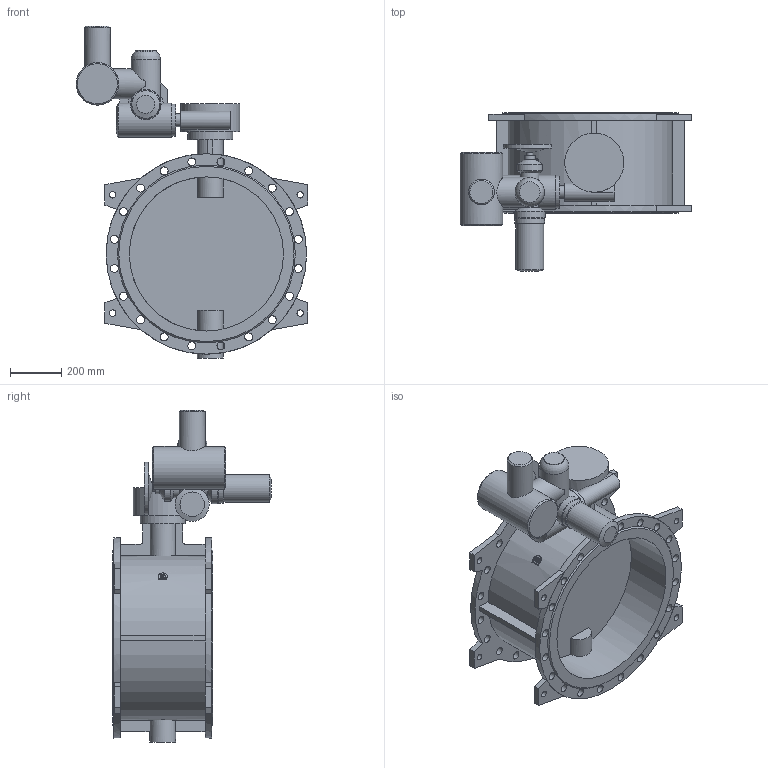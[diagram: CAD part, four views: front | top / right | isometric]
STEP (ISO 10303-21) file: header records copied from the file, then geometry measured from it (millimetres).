
FILE_DESCRIPTION(('STEP AP203'), '1');
FILE_NAME('Çàòâîð 023F.Z DN600 PN10 + ðåäóêòîð + ÌÒ903.À10 ñ ÁÓ', '', ('UNSPECIFIED'), ('UNSPECIFIED'), 'ASCON STEP Converter 1.6', 'ASCON Math Kernel', '');
FILE_SCHEMA(('CONFIG_CONTROL_DESIGN'));
Length unit declared in the file: millimetre
Bounding box: 902 x 618 x 1292 mm (x, y, z)
Volume: 65419356.9 mm3; surface area: 3892482.1 mm2
Topology: 1 solids, 1 shells, 234 faces, 571 edges, 374 vertices
Faces by surface type: plane 111, cylinder 109, cone 13, torus 1
Full cylindrical faces by diameter (mm): 8.5 x4, 12 x4, 14 x4, 18 x4, 24 x1, 25 x8, 31 x40, 42 x1, 50 x1, 66 x1, 70 x1, 72 x1, 80 x1, 100 x3, 108 x1, 114 x1, 115 x1, 116 x1, 119 x1, 125 x1, 132 x1, 166 x1, 175 x1, 230 x1, 600 x2, 780 x2
Entity records: 10821 total; most frequent: CARTESIAN_POINT 3486, DIRECTION 1132, ORIENTED_EDGE 930, EDGE_LOOP 470, AXIS2_PLACEMENT_3D 469, EDGE_CURVE 465, VERTEX_POINT 373, FACE_BOUND 276
